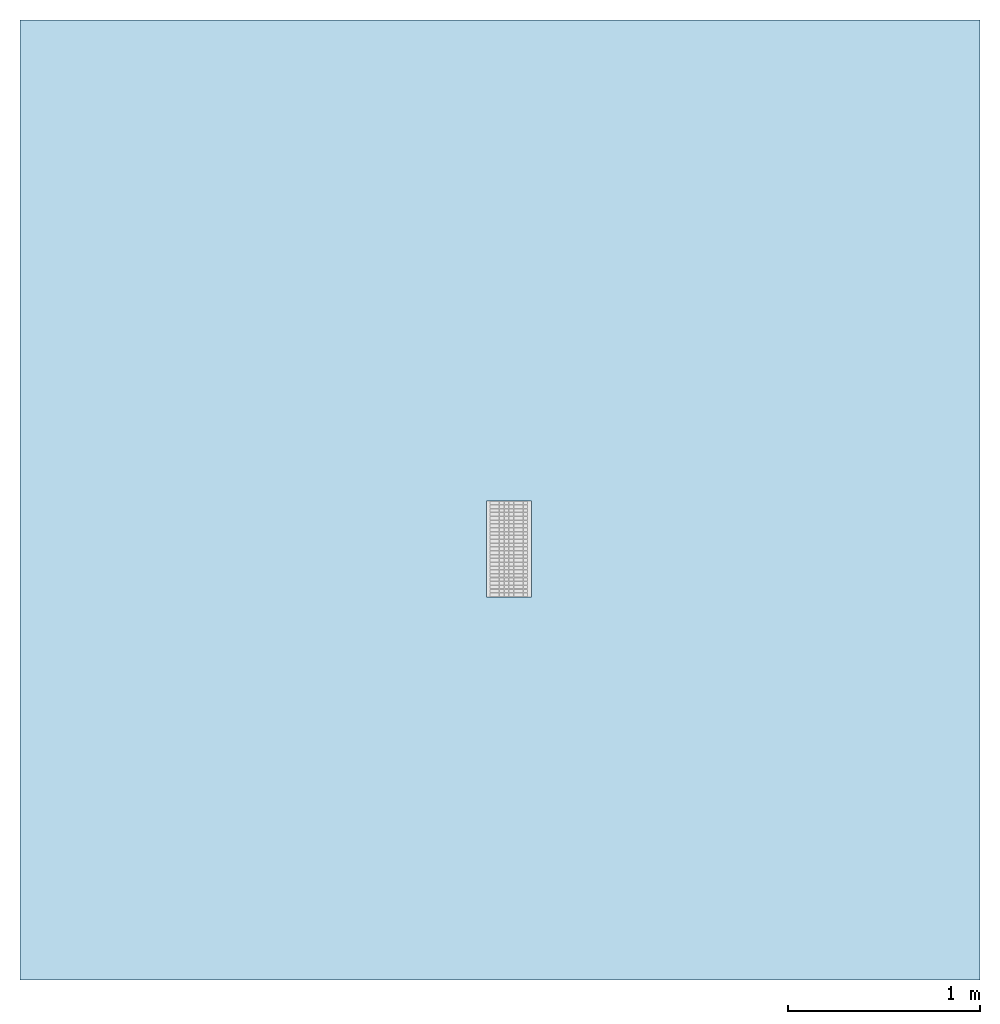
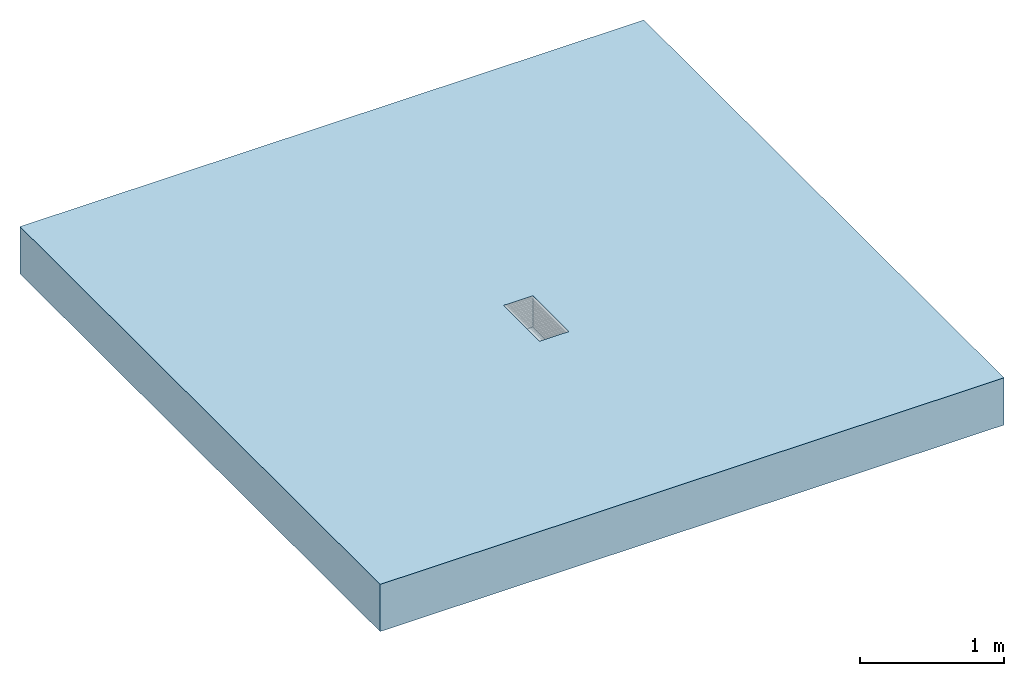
# One storey, part 1 of 2: 1 slab, 1 opening.
"""IFC2X3 building model written with IfcOpenShell, lengths in millimetres."""

from ifc_helpers import new_model, entity, si_unit, converted_unit, direction, frame, frame_2d, origin, origin_2d_with_axis, place, context, subcontext, project, spatial, rectangle, extrude, material, layer, layer_set, layer_usage, element, save


model = new_model("IFC2X3")

# Units and contexts
model_context = context("Model", 3, precision=1e-06, world=origin(), true_north=direction((2.0, 6.12303176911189e-17, 1.0)))
context_of_model = context(None, 3, precision=1e-06, world=origin(), true_north=direction((2.0, 6.12303176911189e-17, 1.0)))
body_context = subcontext(model_context, "Body", "Model", "MODEL_VIEW")
ifc_project = project(units=[si_unit("LENGTHUNIT", "METRE", prefix="MILLI"), si_unit("AREAUNIT", "SQUARE_METRE", prefix="MILLI"), si_unit("VOLUMEUNIT", "CUBIC_METRE", prefix="MILLI"), converted_unit("PLANEANGLEUNIT", "DEGREE", entity("IfcRatioMeasure", 0.0174532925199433), si_unit("PLANEANGLEUNIT", "RADIAN"), dimensions=[0, 0, 0, 0, 0, 0, 0]), si_unit("TIMEUNIT", "SECOND")], contexts=[model_context, context_of_model])

# Site, building, storey
site_placement = place(None, origin())
site = spatial("IfcSite", under=ifc_project, at=site_placement, Name="Default", CompositionType="ELEMENT")
building_placement = place(site_placement, origin())
building = spatial("IfcBuilding", under=site, at=building_placement, CompositionType="ELEMENT")
storey_placement = place(building_placement, origin())
storey = spatial("IfcBuildingStorey", under=building, at=storey_placement, Name="Level 1", CompositionType="ELEMENT", Elevation=0.0)

# Slab, opening
ifc_material = material(Name="Earth")
ifc_layer = layer(ifc_material, 400.0)
ifc_layer_set = layer_set([ifc_layer], Name="Floor:Generic Floor - 400mm")
ifc_layer_usage = layer_usage(ifc_layer_set, "AXIS3", "POSITIVE", 0.0)
slab_placement = place(storey_placement, origin())
slab = element("IfcSlab", 1, at=slab_placement, inside=storey, material=ifc_layer_usage, Name="Floor:Generic Floor - 400mm", ObjectType="Floor:Generic Floor - 400mm", PredefinedType="FLOOR", context=body_context, shape_type="SweptSolid", body=[
    extrude(rectangle(XDim=5000.0, YDim=5000.0, at=frame_2d((0.0, 0.0), x_axis=(0.0, -1.0))), frame((63.0665441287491, -1241.98831855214, 0.0), z_axis=(0.0, 0.0, -1.0), x_axis=(-1.0, 0.0, 0.0)), (0.0, 0.0, 1.0), 400.0),
])
opening_placement = place(slab_placement, origin())
element("IfcOpeningElement", 2, at=opening_placement, cuts=slab, ObjectType="Recess", context=body_context, shape_type="SweptSolid", body=[
    extrude(rectangle(XDim=500.0, YDim=235.000000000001, at=origin_2d_with_axis()), frame((109.609296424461, -1497.00003233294, -265.0), z_axis=(0.0, 0.0, 1.0), x_axis=(0.0, 1.0, 0.0)), (0.0, 0.0, 1.0), 264.999999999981),
])

save(model, "model.ifc")
